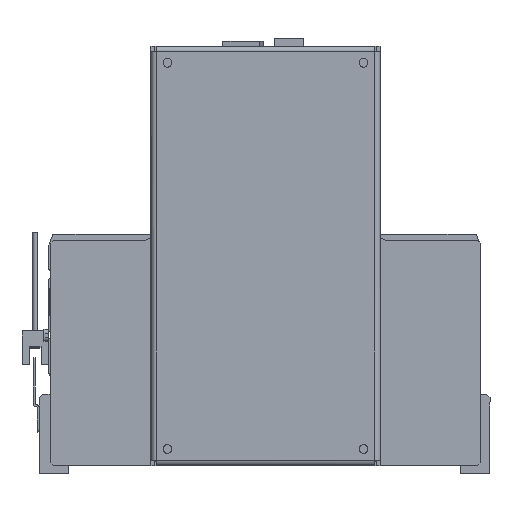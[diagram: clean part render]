
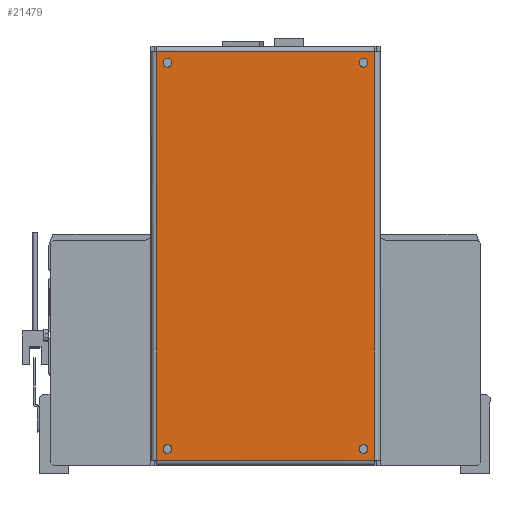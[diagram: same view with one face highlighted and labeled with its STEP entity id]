
A CAD part, front view. The second image highlights one B-rep face of the part: STEP entity #21479.
In plain terms, the highlighted planar face has unit normal (0, -1, 0) as drawn and (0, 0, 1) by its records, which use the part's own axes.
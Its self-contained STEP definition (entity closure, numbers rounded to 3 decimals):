
#624 = ORIENTED_EDGE ( 'NONE', *, *, #23927, .T. ) ;
#1233 = ORIENTED_EDGE ( 'NONE', *, *, #28306, .F. ) ;
#1250 = CIRCLE ( 'NONE', #25525, 2.25 ) ;
#1363 = CARTESIAN_POINT ( 'NONE',  ( 60.535, -72.163, 72. ) ) ;
#1510 = DIRECTION ( 'NONE',  ( 0., 0., 1. ) ) ;
#1618 = VERTEX_POINT ( 'NONE', #3057 ) ;
#1784 = PLANE ( 'NONE',  #22505 ) ;
#2039 = DIRECTION ( 'NONE',  ( 0., 0., 1. ) ) ;
#2124 = LINE ( 'NONE', #1363, #24746 ) ;
#2282 = LINE ( 'NONE', #25475, #20072 ) ;
#2515 = VERTEX_POINT ( 'NONE', #15488 ) ;
#2866 = VERTEX_POINT ( 'NONE', #16427 ) ;
#3057 = CARTESIAN_POINT ( 'NONE',  ( 54.771, -64.12, 72. ) ) ;
#3379 = VERTEX_POINT ( 'NONE', #18706 ) ;
#3515 = LINE ( 'NONE', #25721, #15738 ) ;
#3650 = CIRCLE ( 'NONE', #9459, 2.25 ) ;
#3729 = EDGE_LOOP ( 'NONE', ( #13249, #15271 ) ) ;
#3765 = EDGE_LOOP ( 'NONE', ( #21089, #11665 ) ) ;
#3858 = DIRECTION ( 'NONE',  ( 0., 1., 0. ) ) ;
#3936 = EDGE_CURVE ( 'NONE', #7290, #25819, #13306, .T. ) ;
#4038 = DIRECTION ( 'NONE',  ( 0., 0., 1. ) ) ;
#4487 = VERTEX_POINT ( 'NONE', #14327 ) ;
#4868 = DIRECTION ( 'NONE',  ( 0., 0., 1. ) ) ;
#4939 = EDGE_CURVE ( 'NONE', #2866, #3379, #16112, .T. ) ;
#5508 = ORIENTED_EDGE ( 'NONE', *, *, #14804, .F. ) ;
#5642 = CARTESIAN_POINT ( 'NONE',  ( -45.229, 130.63, 72. ) ) ;
#5779 = EDGE_CURVE ( 'NONE', #28308, #2515, #2124, .T. ) ;
#5909 = VERTEX_POINT ( 'NONE', #8385 ) ;
#6097 = EDGE_CURVE ( 'NONE', #20498, #5909, #18867, .T. ) ;
#6194 = EDGE_CURVE ( 'NONE', #28107, #28308, #2282, .T. ) ;
#6453 = EDGE_CURVE ( 'NONE', #3379, #2866, #3650, .T. ) ;
#6909 = CARTESIAN_POINT ( 'NONE',  ( -45.229, -66.37, 72. ) ) ;
#7290 = VERTEX_POINT ( 'NONE', #23207 ) ;
#7407 = LINE ( 'NONE', #20427, #28282 ) ;
#7640 = DIRECTION ( 'NONE',  ( 0., 0., 1. ) ) ;
#8373 = ORIENTED_EDGE ( 'NONE', *, *, #3936, .F. ) ;
#8385 = CARTESIAN_POINT ( 'NONE',  ( -45.229, -68.62, 72. ) ) ;
#9042 = DIRECTION ( 'NONE',  ( 0., 1., 0. ) ) ;
#9129 = CARTESIAN_POINT ( 'NONE',  ( 54.771, 130.63, 72. ) ) ;
#9328 = DIRECTION ( 'NONE',  ( 0., 0., 1. ) ) ;
#9459 = AXIS2_PLACEMENT_3D ( 'NONE', #26485, #13326, #24507 ) ;
#9698 = AXIS2_PLACEMENT_3D ( 'NONE', #13401, #2039, #22067 ) ;
#9957 = EDGE_CURVE ( 'NONE', #5909, #20498, #1250, .T. ) ;
#10625 = DIRECTION ( 'NONE',  ( 0., 1., 0. ) ) ;
#11030 = ORIENTED_EDGE ( 'NONE', *, *, #6194, .T. ) ;
#11665 = ORIENTED_EDGE ( 'NONE', *, *, #9957, .F. ) ;
#11802 = EDGE_LOOP ( 'NONE', ( #5508, #1233 ) ) ;
#12639 = EDGE_CURVE ( 'NONE', #22022, #28107, #7407, .T. ) ;
#13249 = ORIENTED_EDGE ( 'NONE', *, *, #6453, .F. ) ;
#13306 = CIRCLE ( 'NONE', #23491, 2.25 ) ;
#13326 = DIRECTION ( 'NONE',  ( 0., 0., 1. ) ) ;
#13401 = CARTESIAN_POINT ( 'NONE',  ( 54.771, -66.37, 72. ) ) ;
#13454 = CARTESIAN_POINT ( 'NONE',  ( 60.535, -72.133, 72. ) ) ;
#13698 = CARTESIAN_POINT ( 'NONE',  ( -50.992, 136.394, 72. ) ) ;
#14327 = CARTESIAN_POINT ( 'NONE',  ( 54.771, -68.62, 72. ) ) ;
#14344 = DIRECTION ( 'NONE',  ( 1., 0., 0. ) ) ;
#14475 = DIRECTION ( 'NONE',  ( -1., 0., 0. ) ) ;
#14670 = CIRCLE ( 'NONE', #9698, 2.25 ) ;
#14804 = EDGE_CURVE ( 'NONE', #1618, #4487, #14670, .T. ) ;
#15271 = ORIENTED_EDGE ( 'NONE', *, *, #4939, .F. ) ;
#15488 = CARTESIAN_POINT ( 'NONE',  ( 60.535, 136.394, 72. ) ) ;
#15738 = VECTOR ( 'NONE', #14475, 1000. ) ;
#15752 = ORIENTED_EDGE ( 'NONE', *, *, #12639, .T. ) ;
#16112 = CIRCLE ( 'NONE', #22048, 2.25 ) ;
#16353 = DIRECTION ( 'NONE',  ( 0., 0., 1. ) ) ;
#16427 = CARTESIAN_POINT ( 'NONE',  ( -45.229, 128.38, 72. ) ) ;
#16885 = ORIENTED_EDGE ( 'NONE', *, *, #19187, .F. ) ;
#17033 = DIRECTION ( 'NONE',  ( 0., 1., 0. ) ) ;
#18351 = CARTESIAN_POINT ( 'NONE',  ( 54.771, -66.37, 72. ) ) ;
#18453 = FACE_BOUND ( 'NONE', #3765, .T. ) ;
#18675 = DIRECTION ( 'NONE',  ( 0., 1., 0. ) ) ;
#18706 = CARTESIAN_POINT ( 'NONE',  ( -45.229, 132.88, 72. ) ) ;
#18867 = CIRCLE ( 'NONE', #21518, 2.25 ) ;
#19187 = EDGE_CURVE ( 'NONE', #25819, #7290, #28413, .T. ) ;
#19568 = DIRECTION ( 'NONE',  ( 0., 0., 1. ) ) ;
#19723 = AXIS2_PLACEMENT_3D ( 'NONE', #18351, #9328, #9042 ) ;
#19775 = CARTESIAN_POINT ( 'NONE',  ( -45.229, -64.12, 72. ) ) ;
#20072 = VECTOR ( 'NONE', #14344, 1000. ) ;
#20350 = DIRECTION ( 'NONE',  ( 0., 1., 0. ) ) ;
#20352 = ORIENTED_EDGE ( 'NONE', *, *, #5779, .T. ) ;
#20427 = CARTESIAN_POINT ( 'NONE',  ( -50.992, 136.423, 72. ) ) ;
#20498 = VERTEX_POINT ( 'NONE', #19775 ) ;
#20961 = DIRECTION ( 'NONE',  ( 0., 1., 0. ) ) ;
#20990 = EDGE_LOOP ( 'NONE', ( #15752, #11030, #20352, #624 ) ) ;
#21089 = ORIENTED_EDGE ( 'NONE', *, *, #6097, .F. ) ;
#21479 = ADVANCED_FACE ( 'NONE', ( #21571, #24671, #18453, #26795, #25766 ), #1784, .T. ) ;
#21518 = AXIS2_PLACEMENT_3D ( 'NONE', #6909, #4868, #20350 ) ;
#21531 = CIRCLE ( 'NONE', #19723, 2.25 ) ;
#21571 = FACE_BOUND ( 'NONE', #23206, .T. ) ;
#21661 = CARTESIAN_POINT ( 'NONE',  ( -50.992, -72.133, 72. ) ) ;
#22022 = VERTEX_POINT ( 'NONE', #13698 ) ;
#22048 = AXIS2_PLACEMENT_3D ( 'NONE', #5642, #1510, #17033 ) ;
#22067 = DIRECTION ( 'NONE',  ( 0., 1., 0. ) ) ;
#22505 = AXIS2_PLACEMENT_3D ( 'NONE', #28557, #4038, #3858 ) ;
#22751 = CARTESIAN_POINT ( 'NONE',  ( 54.771, 130.63, 72. ) ) ;
#23206 = EDGE_LOOP ( 'NONE', ( #16885, #8373 ) ) ;
#23207 = CARTESIAN_POINT ( 'NONE',  ( 54.771, 128.38, 72. ) ) ;
#23491 = AXIS2_PLACEMENT_3D ( 'NONE', #22751, #16353, #18675 ) ;
#23895 = CARTESIAN_POINT ( 'NONE',  ( -45.229, -66.37, 72. ) ) ;
#23902 = CARTESIAN_POINT ( 'NONE',  ( 54.771, 132.88, 72. ) ) ;
#23927 = EDGE_CURVE ( 'NONE', #2515, #22022, #3515, .T. ) ;
#24507 = DIRECTION ( 'NONE',  ( 0., 1., 0. ) ) ;
#24671 = FACE_BOUND ( 'NONE', #3729, .T. ) ;
#24746 = VECTOR ( 'NONE', #20961, 1000. ) ;
#25475 = CARTESIAN_POINT ( 'NONE',  ( -51.022, -72.133, 72. ) ) ;
#25525 = AXIS2_PLACEMENT_3D ( 'NONE', #23895, #19568, #10625 ) ;
#25721 = CARTESIAN_POINT ( 'NONE',  ( 60.564, 136.394, 72. ) ) ;
#25766 = FACE_OUTER_BOUND ( 'NONE', #20990, .T. ) ;
#25819 = VERTEX_POINT ( 'NONE', #23902 ) ;
#26485 = CARTESIAN_POINT ( 'NONE',  ( -45.229, 130.63, 72. ) ) ;
#26795 = FACE_BOUND ( 'NONE', #11802, .T. ) ;
#26833 = DIRECTION ( 'NONE',  ( 0., -1., 0. ) ) ;
#26945 = AXIS2_PLACEMENT_3D ( 'NONE', #9129, #7640, #27586 ) ;
#27586 = DIRECTION ( 'NONE',  ( 0., 1., 0. ) ) ;
#28107 = VERTEX_POINT ( 'NONE', #21661 ) ;
#28282 = VECTOR ( 'NONE', #26833, 1000. ) ;
#28306 = EDGE_CURVE ( 'NONE', #4487, #1618, #21531, .T. ) ;
#28308 = VERTEX_POINT ( 'NONE', #13454 ) ;
#28413 = CIRCLE ( 'NONE', #26945, 2.25 ) ;
#28557 = CARTESIAN_POINT ( 'NONE',  ( 29.231, -46.22, 72. ) ) ;
